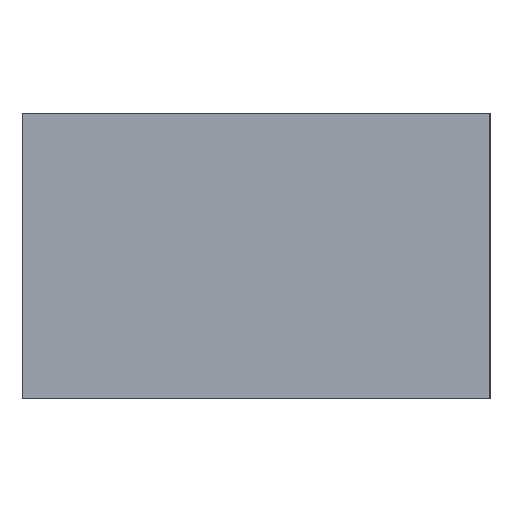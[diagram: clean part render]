
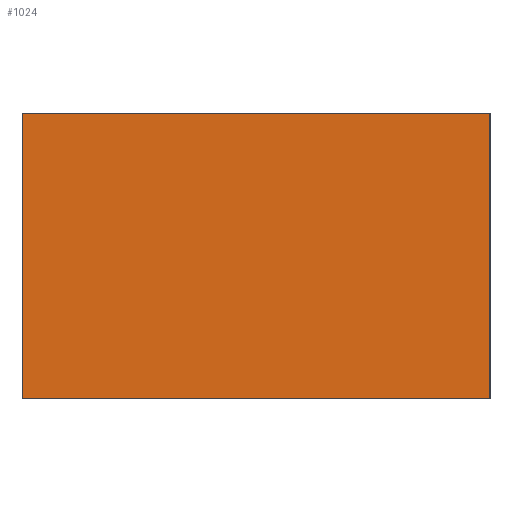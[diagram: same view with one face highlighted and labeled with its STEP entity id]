
A CAD part, left-side view. The second image highlights one B-rep face of the part: STEP entity #1024.
In plain terms, the highlighted planar face has unit normal (-1, 0, 0).
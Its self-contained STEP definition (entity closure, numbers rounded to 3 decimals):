
#24 = DIRECTION ( 'NONE',  ( 0., 0., -1. ) ) ;
#29 = VECTOR ( 'NONE', #746, 1000. ) ;
#46 = VECTOR ( 'NONE', #577, 1000. ) ;
#66 = LINE ( 'NONE', #649, #29 ) ;
#85 = DIRECTION ( 'NONE',  ( 1., 0., 0. ) ) ;
#125 = VECTOR ( 'NONE', #860, 1000. ) ;
#127 = CARTESIAN_POINT ( 'NONE',  ( -110., -14.75, -9. ) ) ;
#133 = CARTESIAN_POINT ( 'NONE',  ( -110., -14.75, 9. ) ) ;
#180 = CARTESIAN_POINT ( 'NONE',  ( -110., 14.75, 9. ) ) ;
#200 = PLANE ( 'NONE',  #542 ) ;
#209 = FACE_OUTER_BOUND ( 'NONE', #740, .T. ) ;
#293 = CARTESIAN_POINT ( 'NONE',  ( -110., 14.75, 9. ) ) ;
#318 = LINE ( 'NONE', #571, #580 ) ;
#460 = VERTEX_POINT ( 'NONE', #293 ) ;
#473 = ORIENTED_EDGE ( 'NONE', *, *, #1087, .F. ) ;
#491 = ORIENTED_EDGE ( 'NONE', *, *, #527, .T. ) ;
#527 = EDGE_CURVE ( 'NONE', #593, #641, #66, .T. ) ;
#539 = ORIENTED_EDGE ( 'NONE', *, *, #1025, .F. ) ;
#542 = AXIS2_PLACEMENT_3D ( 'NONE', #180, #85, #1182 ) ;
#571 = CARTESIAN_POINT ( 'NONE',  ( -110., 14.75, 9. ) ) ;
#577 = DIRECTION ( 'NONE',  ( 0., 0., -1. ) ) ;
#580 = VECTOR ( 'NONE', #24, 1000. ) ;
#584 = EDGE_CURVE ( 'NONE', #460, #593, #318, .T. ) ;
#593 = VERTEX_POINT ( 'NONE', #1127 ) ;
#641 = VERTEX_POINT ( 'NONE', #127 ) ;
#649 = CARTESIAN_POINT ( 'NONE',  ( -110., 14.75, -9. ) ) ;
#675 = LINE ( 'NONE', #768, #125 ) ;
#677 = VERTEX_POINT ( 'NONE', #133 ) ;
#740 = EDGE_LOOP ( 'NONE', ( #491, #539, #473, #968 ) ) ;
#746 = DIRECTION ( 'NONE',  ( 0., -1., 0. ) ) ;
#768 = CARTESIAN_POINT ( 'NONE',  ( -110., 14.75, 9. ) ) ;
#860 = DIRECTION ( 'NONE',  ( 0., -1., 0. ) ) ;
#968 = ORIENTED_EDGE ( 'NONE', *, *, #584, .T. ) ;
#1024 = ADVANCED_FACE ( 'NONE', ( #209 ), #200, .F. ) ;
#1025 = EDGE_CURVE ( 'NONE', #677, #641, #1137, .T. ) ;
#1087 = EDGE_CURVE ( 'NONE', #460, #677, #675, .T. ) ;
#1127 = CARTESIAN_POINT ( 'NONE',  ( -110., 14.75, -9. ) ) ;
#1128 = CARTESIAN_POINT ( 'NONE',  ( -110., -14.75, 9. ) ) ;
#1137 = LINE ( 'NONE', #1128, #46 ) ;
#1182 = DIRECTION ( 'NONE',  ( 0., 1., 0. ) ) ;
